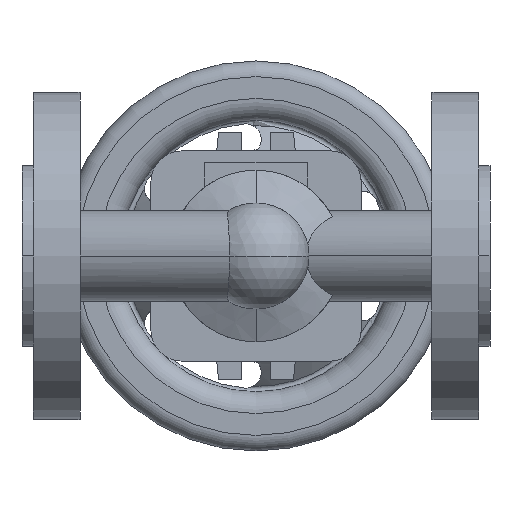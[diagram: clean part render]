
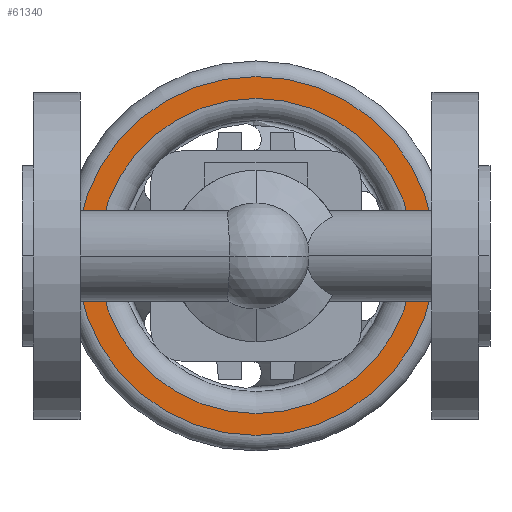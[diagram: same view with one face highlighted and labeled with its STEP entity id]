
A CAD part, front view. The second image highlights one B-rep face of the part: STEP entity #61340.
In plain terms, the highlighted planar face has unit normal (0, -1, 0).
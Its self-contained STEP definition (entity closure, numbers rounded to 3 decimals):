
#60740=CARTESIAN_POINT('',(132.5,202.3,0.));
#60750=VERTEX_POINT('',#60740);
#60780=CARTESIAN_POINT('',(75.,202.3,0.));
#60790=DIRECTION('',(0.,1.,0.));
#60800=DIRECTION('',(-1.,0.,0.));
#60810=AXIS2_PLACEMENT_3D('',#60780,#60790,#60800);
#60820=CIRCLE('',#60810,57.5);
#60830=CARTESIAN_POINT('',(17.5,202.3,0.));
#60840=VERTEX_POINT('',#60830);
#60850=EDGE_CURVE('',#60840,#60750,#60820,.T.);
#61050=CARTESIAN_POINT('',(21.,202.3,0.));
#61060=DIRECTION('',(0.,-1.,0.));
#61070=DIRECTION('',(1.,0.,0.));
#61080=AXIS2_PLACEMENT_3D('',#61050,#61060,#61070);
#61090=PLANE('',#61080);
#61100=ORIENTED_EDGE('',*,*,#60850,.F.);
#61110=EDGE_CURVE('',#60750,#60840,#60820,.T.);
#61120=ORIENTED_EDGE('',*,*,#61110,.F.);
#61130=EDGE_LOOP('',(#61120,#61100));
#61140=FACE_OUTER_BOUND('',#61130,.T.);
#61150=CARTESIAN_POINT('',(75.,202.3,0.));
#61160=DIRECTION('',(0.,1.,0.));
#61170=DIRECTION('',(-1.,0.,0.));
#61180=AXIS2_PLACEMENT_3D('',#61150,#61160,#61170);
#61190=CIRCLE('',#61180,50.5);
#61200=CARTESIAN_POINT('',(24.5,202.3,0.));
#61210=VERTEX_POINT('',#61200);
#61220=CARTESIAN_POINT('',(125.5,202.3,0.));
#61230=VERTEX_POINT('',#61220);
#61240=EDGE_CURVE('',#61210,#61230,#61190,.T.);
#61250=ORIENTED_EDGE('',*,*,#61240,.T.);
#61260=CARTESIAN_POINT('',(75.,202.3,-50.5));
#61270=VERTEX_POINT('',#61260);
#61280=EDGE_CURVE('',#61270,#61210,#61190,.T.);
#61290=ORIENTED_EDGE('',*,*,#61280,.T.);
#61300=EDGE_CURVE('',#61230,#61270,#61190,.T.);
#61310=ORIENTED_EDGE('',*,*,#61300,.T.);
#61320=EDGE_LOOP('',(#61310,#61290,#61250));
#61330=FACE_BOUND('',#61320,.T.);
#61340=ADVANCED_FACE('',(#61140,#61330),#61090,.T.);
